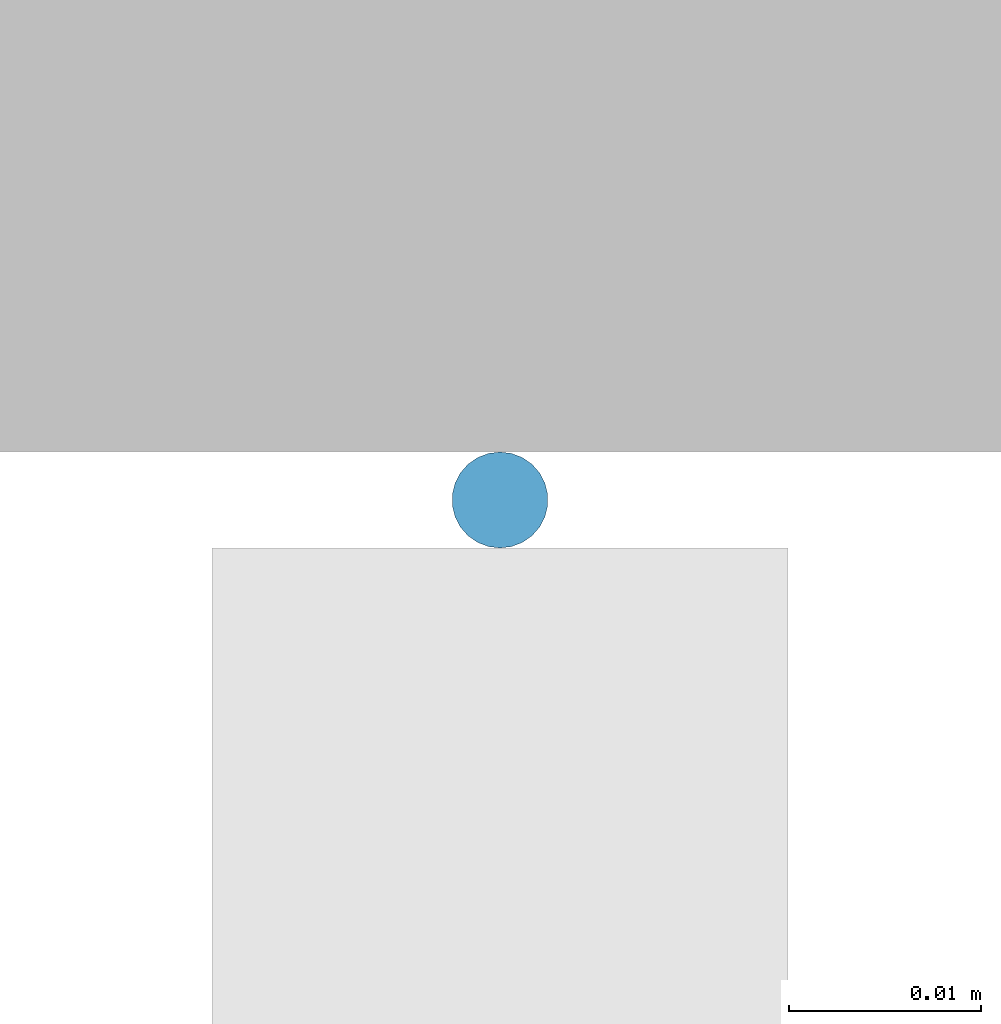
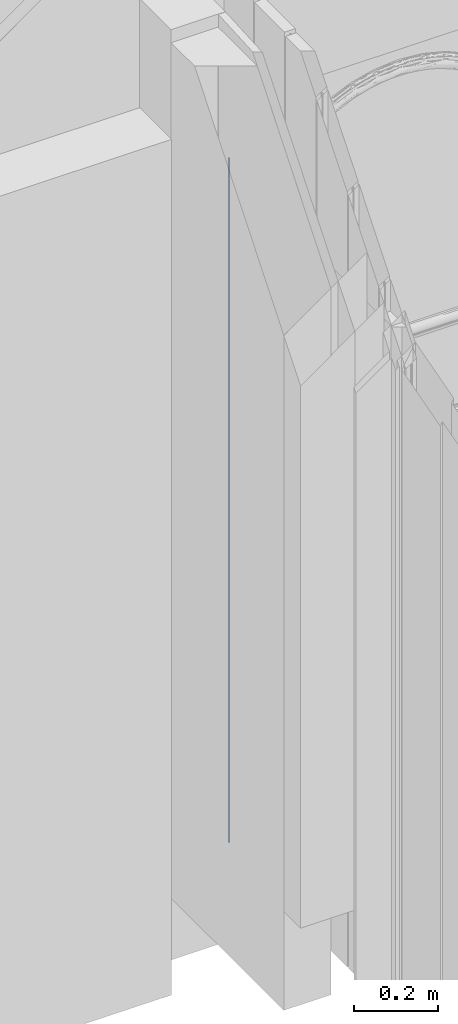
# One storey, part 53 of 81: 1 member, 1 element without a shape of its own.
"""IFC2X3 building model written with IfcOpenShell, lengths in metres."""

from ifc_helpers import new_model, entity, si_unit, converted_unit, derived_unit, direction, frame, frame_2d, origin, place, context, subcontext, project, spatial, circle, extrude, source, transform, mapped, material, type_object, type_shapes, element, aggregate, save


model = new_model("IFC2X3")

# Units and contexts
model_context = context("Model", 3, precision=1e-05, world=origin(), true_north=direction((6.12303176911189e-17, 1.0)))
body_context = subcontext(model_context, "Body", "Model", "MODEL_VIEW")
ifc_project = project(units=[si_unit("LENGTHUNIT", "METRE"), si_unit("AREAUNIT", "SQUARE_METRE"), si_unit("VOLUMEUNIT", "CUBIC_METRE"), converted_unit("PLANEANGLEUNIT", "DEGREE", entity("IfcRatioMeasure", 0.0174532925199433), si_unit("PLANEANGLEUNIT", "RADIAN"), dimensions=[0, 0, 0, 0, 0, 0, 0]), si_unit("MASSUNIT", "GRAM", prefix="KILO"), derived_unit("MASSDENSITYUNIT", [(si_unit("MASSUNIT", "GRAM", prefix="KILO"), 1), (si_unit("LENGTHUNIT", "METRE"), -3)]), derived_unit("MOMENTOFINERTIAUNIT", [(si_unit("LENGTHUNIT", "METRE"), 4)]), si_unit("TIMEUNIT", "SECOND"), si_unit("FREQUENCYUNIT", "HERTZ"), si_unit("THERMODYNAMICTEMPERATUREUNIT", "DEGREE_CELSIUS"), derived_unit("THERMALTRANSMITTANCEUNIT", [(si_unit("MASSUNIT", "GRAM", prefix="KILO"), 1), (si_unit("THERMODYNAMICTEMPERATUREUNIT", "KELVIN"), -1), (si_unit("TIMEUNIT", "SECOND"), -3)]), derived_unit("VOLUMETRICFLOWRATEUNIT", [(si_unit("LENGTHUNIT", "METRE"), 3), (si_unit("TIMEUNIT", "SECOND"), -1)]), si_unit("ELECTRICCURRENTUNIT", "AMPERE"), si_unit("ELECTRICVOLTAGEUNIT", "VOLT"), si_unit("POWERUNIT", "WATT"), si_unit("FORCEUNIT", "NEWTON", prefix="KILO"), si_unit("ILLUMINANCEUNIT", "LUX"), si_unit("LUMINOUSFLUXUNIT", "LUMEN"), si_unit("LUMINOUSINTENSITYUNIT", "CANDELA"), derived_unit("USERDEFINED", [(si_unit("MASSUNIT", "GRAM", prefix="KILO"), -1), (si_unit("LENGTHUNIT", "METRE"), -2), (si_unit("TIMEUNIT", "SECOND"), 3), (si_unit("LUMINOUSFLUXUNIT", "LUMEN"), 1)]), derived_unit("LINEARVELOCITYUNIT", [(si_unit("LENGTHUNIT", "METRE"), 1), (si_unit("TIMEUNIT", "SECOND"), -1)]), si_unit("PRESSUREUNIT", "PASCAL"), derived_unit("USERDEFINED", [(si_unit("LENGTHUNIT", "METRE"), -2), (si_unit("MASSUNIT", "GRAM", prefix="KILO"), 1), (si_unit("TIMEUNIT", "SECOND"), -2)]), derived_unit("LINEARFORCEUNIT", [(si_unit("MASSUNIT", "GRAM", prefix="KILO"), 1), (si_unit("LENGTHUNIT", "METRE"), 1), (si_unit("TIMEUNIT", "SECOND"), -2), (si_unit("LENGTHUNIT", "METRE"), -1)]), derived_unit("PLANARFORCEUNIT", [(si_unit("MASSUNIT", "GRAM", prefix="KILO"), 1), (si_unit("LENGTHUNIT", "METRE"), 1), (si_unit("TIMEUNIT", "SECOND"), -2), (si_unit("LENGTHUNIT", "METRE"), -2)])], contexts=[model_context])

# Site, building, storey
site_placement = place(None, origin())
site = spatial("IfcSite", under=ifc_project, at=site_placement, Name="Surface", CompositionType="ELEMENT")
building_placement = place(site_placement, origin())
building = spatial("IfcBuilding", under=site, at=building_placement, CompositionType="ELEMENT")
storey_placement = place(building_placement, origin())
storey = spatial("IfcBuildingStorey", under=building, at=storey_placement, Name="01 RDC", CompositionType="ELEMENT", Elevation=-1.94916083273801e-14)

# Curtain wall, member
curtain_wall_type = type_object("IfcCurtainWallType", Name="Mur-rideau:1m x 2m", PredefinedType="NOTDEFINED")
curtain_wall_placement = place(storey_placement, origin())
curtain_wall = element("IfcCurtainWall", 1, at=curtain_wall_placement, inside=storey, type_object=curtain_wall_type, Name="Mur-rideau:1m x 2m", ObjectType="Mur-rideau:1m x 2m")
ifc_material = material(Name="Aluminium - Vert")
member_type = type_object("IfcMemberType", Name="Meneau circulaire:R-30 mm", PredefinedType="MULLION", material=ifc_material)
shared_shape = source(origin(), body_context, "Body", "SweptSolid", [
    extrude(circle(Radius=0.0025, at=frame_2d((-1.17965647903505e-32, 3.7744895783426e-18), x_axis=(1.0, 0.0))), frame((-0.0025, 0.0, -2.0)), (0.0, 0.0, 1.0), 2.0),
])
type_shapes(member_type, [shared_shape])
member_placement = place(storey_placement, frame((8.02156158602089, -3.69596095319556, 2.0), z_axis=(0.0, 0.0, 1.0), x_axis=(0.0, 1.0, 0.0)))
member = element("IfcMember", 2, at=member_placement, type_object=member_type, material=ifc_material, Name="Meneau circulaire:R-30 mm", ObjectType="Meneau circulaire:R-30 mm", context=body_context, shape_type="MappedRepresentation", body=[
    mapped(shared_shape, transform((0.0, 0.0, 0.0), scale=1.0)),
])
aggregate(curtain_wall, [member])

save(model, "model.ifc")
